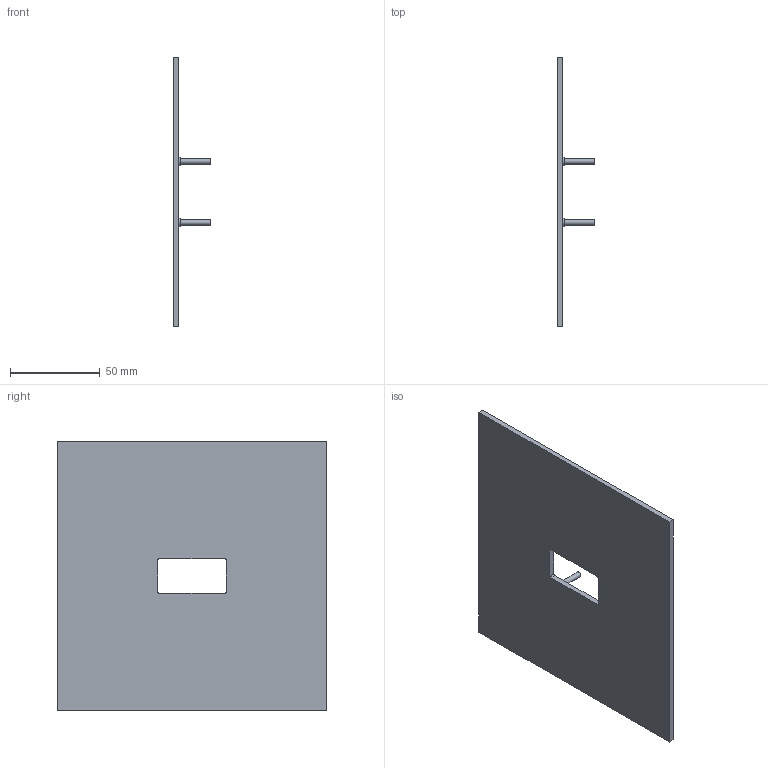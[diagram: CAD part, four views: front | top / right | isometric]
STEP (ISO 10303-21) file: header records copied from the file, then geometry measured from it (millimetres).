
FILE_DESCRIPTION(/* description */ (''),/* implementation_level */ '2;1');
FILE_NAME(/* name */ 'Q:\Neue Struktur\_Bauteile\Supportzeichnungen\Fingerprint Reader Module\DoorBird Fingerprint Reader Module 50.stp',/* time_stamp */ '2022-08-19T09:13:26+02:00',/* author */ ('David Keller'),/* organization */ (''),/* preprocessor_version */ 'ST-DEVELOPER v18.1',/* originating_system */ 'Autodesk Inventor 2020',/* authorisation */ '');
FILE_SCHEMA (('AUTOMOTIVE_DESIGN { 1 0 10303 214 3 1 1 }'));
Length unit declared in the file: millimetre
Products named in the file (1): DoorBird Fingerprint Reader Module 50
Bounding box: 21 x 150 x 150 mm (x, y, z)
Volume: 65878.2 mm3; surface area: 46388.7 mm2
Topology: 1 solids, 1 shells, 34 faces, 84 edges, 60 vertices
Faces by surface type: plane 18, cylinder 12, cone 4
Full cylindrical faces by diameter (mm): 3 x4, 4.5 x4
Entity records: 1093 total; most frequent: DIRECTION 198, CARTESIAN_POINT 179, ORIENTED_EDGE 168, EDGE_CURVE 84, AXIS2_PLACEMENT_3D 79, VERTEX_POINT 60, EDGE_LOOP 44, CIRCLE 44
